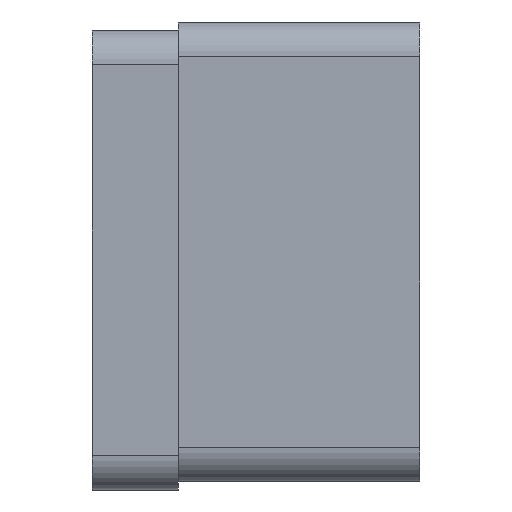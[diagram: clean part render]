
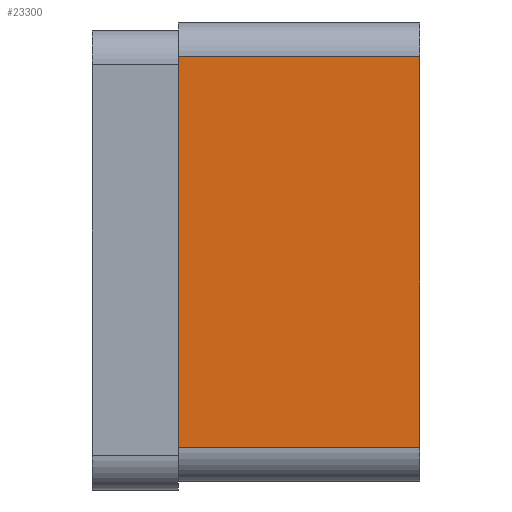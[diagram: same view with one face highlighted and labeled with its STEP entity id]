
A CAD part, left-side view. The second image highlights one B-rep face of the part: STEP entity #23300.
In plain terms, the highlighted planar face has unit normal (-1, 0, 0).
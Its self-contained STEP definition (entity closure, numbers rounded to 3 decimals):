
#176 = VECTOR ( 'NONE', #23138, 1000. ) ;
#781 = VERTEX_POINT ( 'NONE', #13297 ) ;
#1697 = CARTESIAN_POINT ( 'NONE',  ( -62.5, 42., -40. ) ) ;
#2175 = DIRECTION ( 'NONE',  ( 0., 0., -1. ) ) ;
#2989 = CARTESIAN_POINT ( 'NONE',  ( -62.5, 42., 34. ) ) ;
#3341 = LINE ( 'NONE', #2989, #176 ) ;
#3681 = EDGE_LOOP ( 'NONE', ( #14583, #8747, #21566, #17239 ) ) ;
#3981 = FACE_OUTER_BOUND ( 'NONE', #3681, .T. ) ;
#4298 = LINE ( 'NONE', #17818, #7473 ) ;
#5670 = PLANE ( 'NONE',  #17705 ) ;
#7473 = VECTOR ( 'NONE', #23371, 1000. ) ;
#8185 = DIRECTION ( 'NONE',  ( 0., 0., 1. ) ) ;
#8747 = ORIENTED_EDGE ( 'NONE', *, *, #21087, .T. ) ;
#9652 = CARTESIAN_POINT ( 'NONE',  ( -62.5, 42., -40. ) ) ;
#10346 = EDGE_CURVE ( 'NONE', #13143, #17997, #14518, .T. ) ;
#11337 = DIRECTION ( 'NONE',  ( 1., 0., 0. ) ) ;
#12351 = CARTESIAN_POINT ( 'NONE',  ( -62.5, 42., 34. ) ) ;
#13143 = VERTEX_POINT ( 'NONE', #19188 ) ;
#13297 = CARTESIAN_POINT ( 'NONE',  ( -62.5, 0., -34. ) ) ;
#13374 = LINE ( 'NONE', #20759, #21032 ) ;
#14518 = LINE ( 'NONE', #1697, #21685 ) ;
#14583 = ORIENTED_EDGE ( 'NONE', *, *, #17539, .T. ) ;
#16250 = EDGE_CURVE ( 'NONE', #13143, #781, #4298, .T. ) ;
#17239 = ORIENTED_EDGE ( 'NONE', *, *, #16250, .T. ) ;
#17405 = CARTESIAN_POINT ( 'NONE',  ( -62.5, 0., 34. ) ) ;
#17539 = EDGE_CURVE ( 'NONE', #781, #19476, #13374, .T. ) ;
#17705 = AXIS2_PLACEMENT_3D ( 'NONE', #9652, #11337, #2175 ) ;
#17818 = CARTESIAN_POINT ( 'NONE',  ( -62.5, 42., -34. ) ) ;
#17997 = VERTEX_POINT ( 'NONE', #12351 ) ;
#18381 = DIRECTION ( 'NONE',  ( 0., 0., 1. ) ) ;
#19188 = CARTESIAN_POINT ( 'NONE',  ( -62.5, 42., -34. ) ) ;
#19476 = VERTEX_POINT ( 'NONE', #17405 ) ;
#20759 = CARTESIAN_POINT ( 'NONE',  ( -62.5, 0., -40. ) ) ;
#21032 = VECTOR ( 'NONE', #8185, 1000. ) ;
#21087 = EDGE_CURVE ( 'NONE', #19476, #17997, #3341, .T. ) ;
#21566 = ORIENTED_EDGE ( 'NONE', *, *, #10346, .F. ) ;
#21685 = VECTOR ( 'NONE', #18381, 1000. ) ;
#23138 = DIRECTION ( 'NONE',  ( 0., 1., 0. ) ) ;
#23300 = ADVANCED_FACE ( 'NONE', ( #3981 ), #5670, .F. ) ;
#23371 = DIRECTION ( 'NONE',  ( 0., -1., 0. ) ) ;
